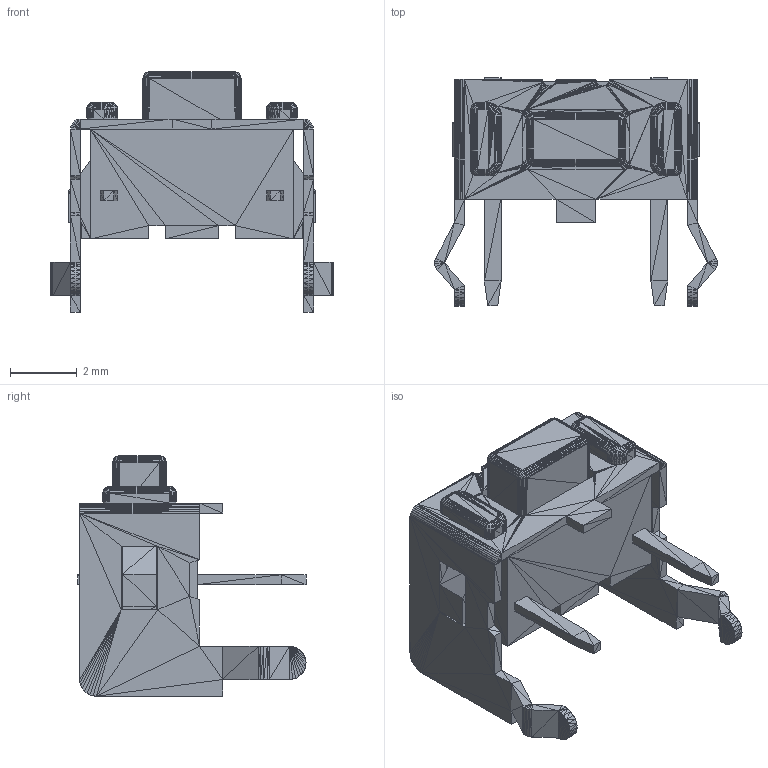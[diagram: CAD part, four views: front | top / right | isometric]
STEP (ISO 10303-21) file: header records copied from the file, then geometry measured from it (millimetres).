
FILE_DESCRIPTION(/* description */ (''),/* implementation_level */ '2;1');
FILE_NAME(/* name */ 'TS 637 RA.stp',/* time_stamp */ '2021-1-25T13:34:09.0425634',/* author */ ('knitter-switch'),/* organization */ (''),/* preprocessor_version */ 'InStep v2',/* originating_system */ 'InStep V2.3',/* authorisation */ '');
FILE_SCHEMA (('AUTOMOTIVE_DESIGN { 1 0 10303 214 1 1 1 1 }'));
Length unit declared in the file: centimetre
Products named in the file (1): None
Bounding box: 8.5 x 6.85 x 7.22 mm (x, y, z)
Surface area: 376.9 mm2
Topology: 3 solids, 16 shells, 5461 faces, 9444 edges, 3686 vertices
Faces by surface type: plane 5461
Entity records: 93188 total; most frequent: ORIENTED_EDGE 18888, DIRECTION 13063, LINE 9444, EDGE_CURVE 9444, VECTOR 7600, AXIS2_PLACEMENT_3D 5462, EDGE_LOOP 5461, FACE_OUTER_BOUND 5461
